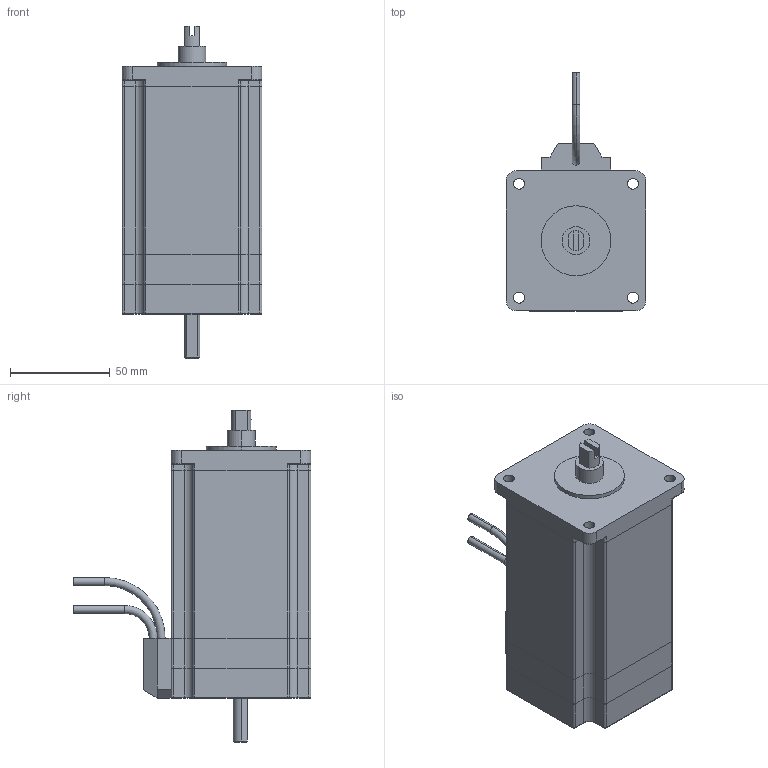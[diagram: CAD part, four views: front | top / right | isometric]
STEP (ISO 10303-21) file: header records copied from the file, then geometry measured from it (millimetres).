
FILE_DESCRIPTION (( 'STEP AP214' ), '1' );
FILE_NAME ('PBL70-80.STEP', '2024-01-02T09:12:40', ( '' ), ( '' ), 'SwSTEP 2.0', 'SolidWorks 2023', '' );
FILE_SCHEMA (( 'AUTOMOTIVE_DESIGN' ));
Length unit declared in the file: millimetre
Products named in the file (1): PBL70-80
Bounding box: 70 x 119.11 x 166.2 mm (x, y, z)
Volume: 570351.6 mm3; surface area: 47855.5 mm2
Topology: 1 solids, 1 shells, 214 faces, 492 edges, 281 vertices
Faces by surface type: cylinder 102, plane 81, torus 20, cone 11
Entity records: 8452 total; most frequent: CARTESIAN_POINT 1188, DIRECTION 1091, ORIENTED_EDGE 968, EDGE_CURVE 484, AXIS2_PLACEMENT_3D 404, LINE 283, VECTOR 283, VERTEX_POINT 281
